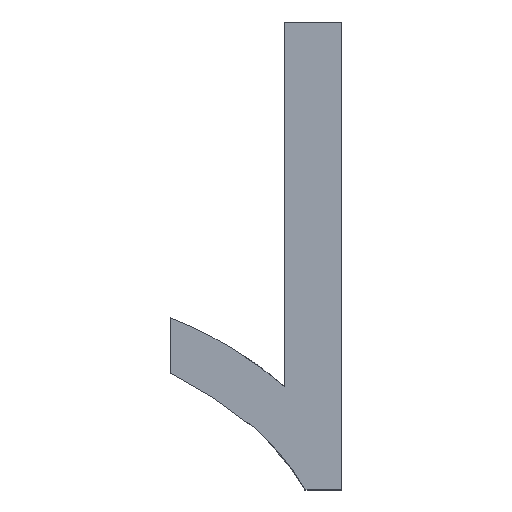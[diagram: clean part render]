
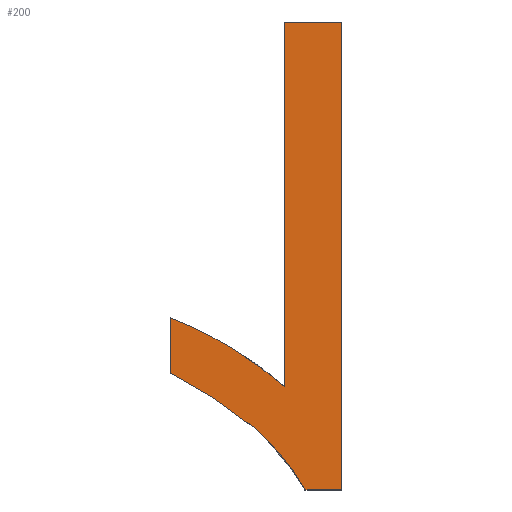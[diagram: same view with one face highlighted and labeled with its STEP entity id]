
A CAD part, top view. The second image highlights one B-rep face of the part: STEP entity #200.
In plain terms, the highlighted planar face has unit normal (0, 0, 1).
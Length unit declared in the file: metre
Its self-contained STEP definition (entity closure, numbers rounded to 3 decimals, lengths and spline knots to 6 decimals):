
#12=CIRCLE('',#209,0.000669);
#15=B_SPLINE_CURVE_WITH_KNOTS('',3,(#283,#284,#285,#286),.UNSPECIFIED.,
 .F.,.F.,(4,4),(0.,0.000118),.UNSPECIFIED.);
#17=B_SPLINE_CURVE_WITH_KNOTS('',3,(#317,#318,#319,#320),.UNSPECIFIED.,
 .F.,.F.,(4,4),(0.,0.000176),.UNSPECIFIED.);
#19=B_SPLINE_CURVE_WITH_KNOTS('',3,(#339,#340,#341,#342,#343),
 .UNSPECIFIED.,.F.,.F.,(4,1,4),(0.,0.007725,0.014162),
 .UNSPECIFIED.);
#69=ORIENTED_EDGE('',*,*,#103,.T.);
#70=ORIENTED_EDGE('',*,*,#78,.T.);
#71=ORIENTED_EDGE('',*,*,#82,.T.);
#72=ORIENTED_EDGE('',*,*,#85,.T.);
#73=ORIENTED_EDGE('',*,*,#88,.T.);
#74=ORIENTED_EDGE('',*,*,#91,.T.);
#75=ORIENTED_EDGE('',*,*,#94,.T.);
#76=ORIENTED_EDGE('',*,*,#97,.T.);
#77=ORIENTED_EDGE('',*,*,#100,.T.);
#78=EDGE_CURVE('',#105,#106,#123,.T.);
#82=EDGE_CURVE('',#106,#109,#127,.T.);
#85=EDGE_CURVE('',#109,#111,#15,.T.);
#88=EDGE_CURVE('',#111,#113,#12,.F.);
#91=EDGE_CURVE('',#113,#115,#132,.T.);
#94=EDGE_CURVE('',#115,#117,#17,.T.);
#97=EDGE_CURVE('',#117,#119,#19,.T.);
#100=EDGE_CURVE('',#119,#121,#137,.F.);
#103=EDGE_CURVE('',#121,#105,#140,.F.);
#105=VERTEX_POINT('',#260);
#106=VERTEX_POINT('',#261);
#109=VERTEX_POINT('',#269);
#111=VERTEX_POINT('',#287);
#113=VERTEX_POINT('',#297);
#115=VERTEX_POINT('',#303);
#117=VERTEX_POINT('',#321);
#119=VERTEX_POINT('',#344);
#121=VERTEX_POINT('',#353);
#123=LINE('',#259,#142);
#127=LINE('',#268,#146);
#132=LINE('',#302,#151);
#137=LINE('',#352,#156);
#140=LINE('',#358,#159);
#142=VECTOR('',#220,1.);
#146=VECTOR('',#226,1.);
#151=VECTOR('',#239,1.);
#156=VECTOR('',#246,1.);
#159=VECTOR('',#251,1.);
#171=EDGE_LOOP('',(#69,#70,#71,#72,#73,#74,#75,#76,#77));
#182=FACE_BOUND('',#171,.T.);
#189=PLANE('',#215);
#200=ADVANCED_FACE('',(#182),#189,.F.);
#209=AXIS2_PLACEMENT_3D('',#296,#232,#233);
#215=AXIS2_PLACEMENT_3D('',#361,#255,#256);
#220=DIRECTION('',(-1.,0.,0.));
#226=DIRECTION('',(0.,-1.,0.));
#232=DIRECTION('',(0.,0.,-1.));
#233=DIRECTION('',(-1.,0.,0.));
#239=DIRECTION('',(0.,-1.,0.));
#246=DIRECTION('',(-1.,0.,0.));
#251=DIRECTION('',(0.,-1.,0.));
#255=DIRECTION('',(0.,0.,-1.));
#256=DIRECTION('',(0.,-1.,0.));
#259=CARTESIAN_POINT('',(-0.041891,0.004219,-0.03));
#260=CARTESIAN_POINT('',(-0.040282,0.004219,-0.03));
#261=CARTESIAN_POINT('',(-0.040382,0.004219,-0.03));
#268=CARTESIAN_POINT('',(-0.040382,0.00381,-0.03));
#269=CARTESIAN_POINT('',(-0.040382,0.003579,-0.03));
#283=CARTESIAN_POINT('',(-0.040382,0.003579,-0.03));
#284=CARTESIAN_POINT('',(-0.040412,0.003605,-0.03));
#285=CARTESIAN_POINT('',(-0.040443,0.003628,-0.03));
#286=CARTESIAN_POINT('',(-0.040477,0.003648,-0.03));
#287=CARTESIAN_POINT('',(-0.040477,0.003648,-0.03));
#296=CARTESIAN_POINT('',(-0.040824,0.003076,-0.03));
#297=CARTESIAN_POINT('',(-0.040583,0.0037,-0.03));
#302=CARTESIAN_POINT('',(-0.040583,0.00381,-0.03));
#303=CARTESIAN_POINT('',(-0.040583,0.003603,-0.03));
#317=CARTESIAN_POINT('',(-0.040583,0.003603,-0.03));
#318=CARTESIAN_POINT('',(-0.04053,0.003577,-0.03));
#319=CARTESIAN_POINT('',(-0.040481,0.003545,-0.03));
#320=CARTESIAN_POINT('',(-0.040435,0.003507,-0.03));
#321=CARTESIAN_POINT('',(-0.040435,0.003507,-0.03));
#339=CARTESIAN_POINT('',(-0.040435,0.003507,-0.03));
#340=CARTESIAN_POINT('',(-0.040416,0.00349,-0.03));
#341=CARTESIAN_POINT('',(-0.040382,0.003457,-0.03));
#342=CARTESIAN_POINT('',(-0.040357,0.003417,-0.03));
#343=CARTESIAN_POINT('',(-0.040346,0.003398,-0.03));
#344=CARTESIAN_POINT('',(-0.040346,0.003398,-0.03));
#352=CARTESIAN_POINT('',(-0.041891,0.003398,-0.03));
#353=CARTESIAN_POINT('',(-0.040282,0.003398,-0.03));
#358=CARTESIAN_POINT('',(-0.040282,0.00381,-0.03));
#361=CARTESIAN_POINT('',(-0.041891,0.00381,-0.03));
